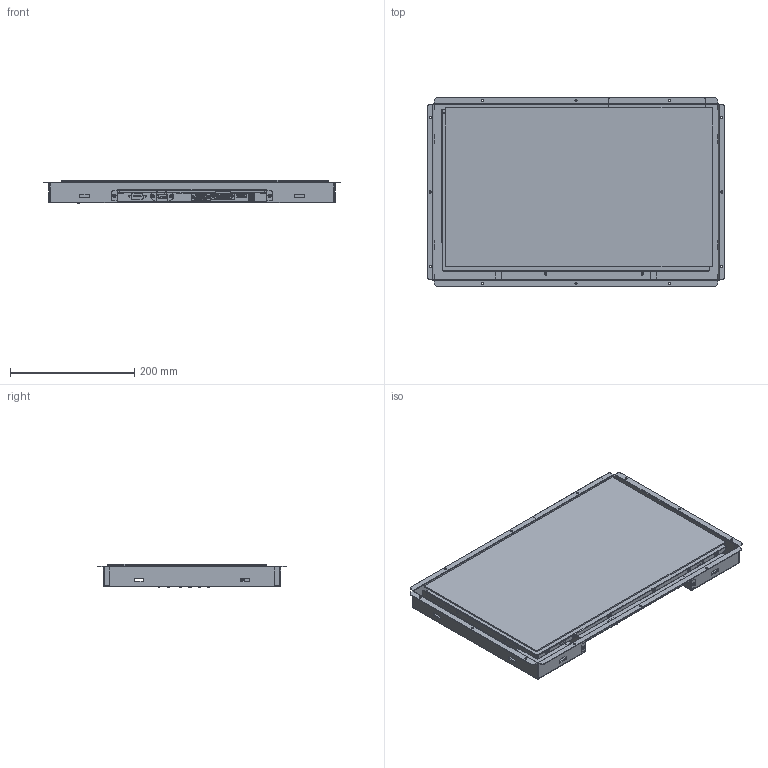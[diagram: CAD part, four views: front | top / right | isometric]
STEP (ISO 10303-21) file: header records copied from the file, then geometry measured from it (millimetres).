
FILE_DESCRIPTION (( 'STEP AP203' ), '1' );
FILE_NAME ('IDS-3118WP-30HDA1E.STEP', '2016-02-23T02:18:56', ( 'itd.mis' ), ( '' ), 'SwSTEP 2.0', 'SolidWorks 2013', '' );
FILE_SCHEMA (( 'CONFIG_CONTROL_DESIGN' ));
Products named in the file (1): IDS-3118WP-30HDA1E
Bounding box: 478 x 303 x 37.65 mm (x, y, z)
Surface area: 848904.3 mm2 (no closed solid volume)
Topology: 0 solids, 111 shells, 1069 faces, 6397 edges, 5296 vertices
Faces by surface type: plane 463, cylinder 420, cone 107, bspline 54, torus 23, sphere 2
Entity records: 68868 total; most frequent: CARTESIAN_POINT 21315, DIRECTION 9143, ORIENTED_EDGE 8356, EDGE_CURVE 6384, VERTEX_POINT 5294, VECTOR 3979, LINE 3979, AXIS2_PLACEMENT_3D 2582
